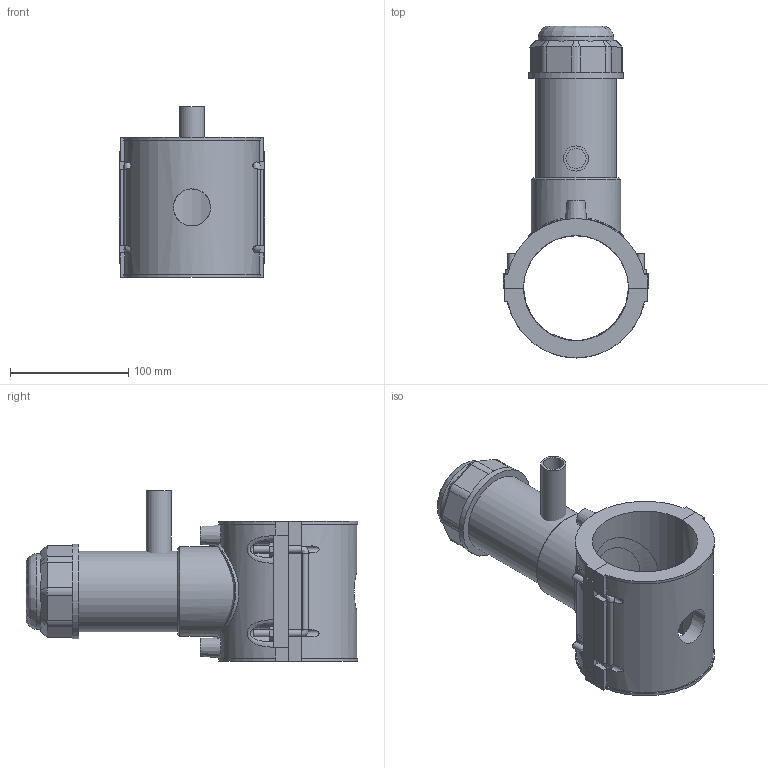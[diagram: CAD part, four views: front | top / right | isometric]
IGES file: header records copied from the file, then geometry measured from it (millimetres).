
Global section: file name: 5963BBP3030005.ipt; native system: Autodesk Inventor 2019; preprocessor: unknown; author: KIM; date: 20210830.101514; units: inch
Bounding box: 122.9 x 280.2 x 144.15 mm (x, y, z)
Volume: 931507.7 mm3; surface area: 189158.3 mm2
Topology: 3 solids, 3 shells, 204 faces, 526 edges, 343 vertices
Faces by surface type: plane 125, cylinder 37, revolution 21, cone 15, bspline 6
Full cylindrical faces by diameter (mm): 4 x2, 6 x8, 21.2 x1, 63.864 x1, 67.856 x1, 75.839 x1, 79.83 x1
